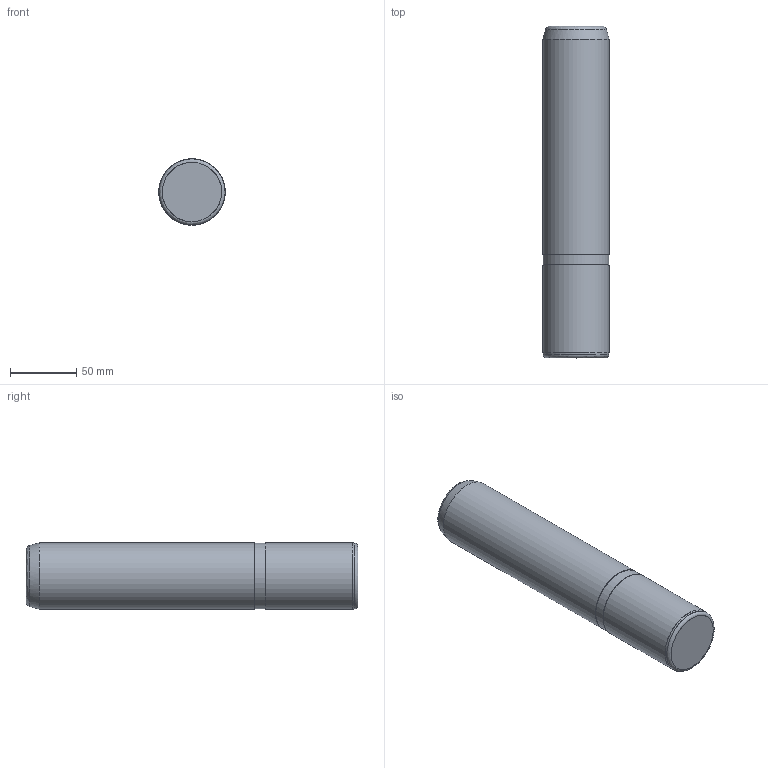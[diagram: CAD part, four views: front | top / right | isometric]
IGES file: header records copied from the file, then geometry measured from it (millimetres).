
Start section: Missler Software BP 521, 31674 Labege Cedex, France Tel   : +33 (0)5 61 00 03 00 Fax   : +33 (0)5 61 00 03 03 Email : sup.topsolid@topsolid.com
Global section: file name: D:\Cuma\26 04 2010\D15g\D15_50250.igs; native system: TopSolid v605250 Missler Software; preprocessor: IGES preprocessor v100000; date: 030225.172042; units: millimetre
Bounding box: 50 x 250 x 50 mm (x, y, z)
Surface area: 42583.1 mm2 (no closed solid volume)
Topology: 0 solids, 0 shells, 11 faces, 216 edges, 210 vertices
Faces by surface type: bspline 11
